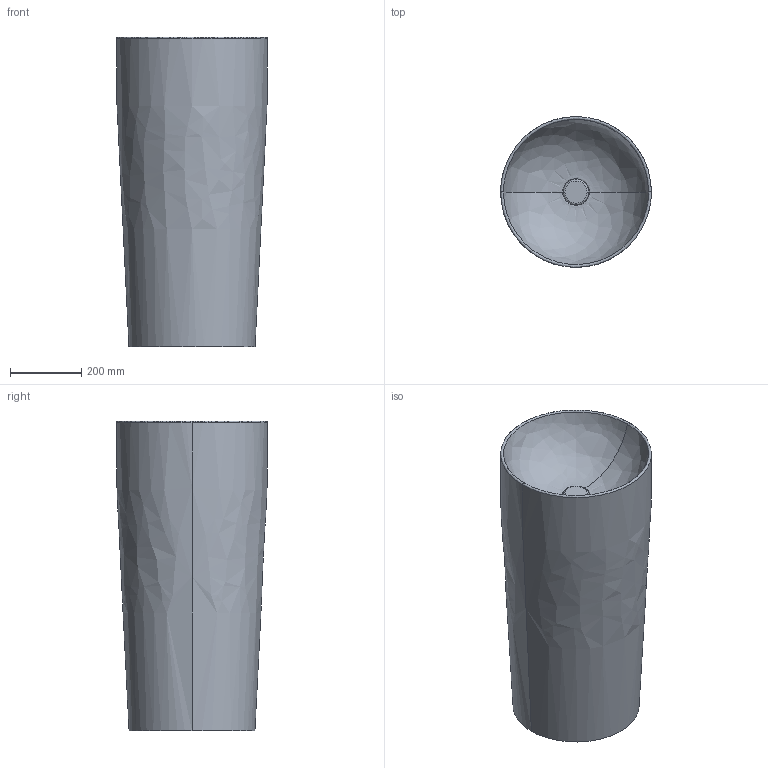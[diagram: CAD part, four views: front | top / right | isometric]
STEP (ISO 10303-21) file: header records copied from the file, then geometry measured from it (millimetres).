
FILE_DESCRIPTION(/* description */ (''),/* implementation_level */ '2;1');
FILE_NAME(/* name */ 'FLAT-5',/* time_stamp */ '2020-11-16T14:48:48+01:00',/* author */ (''),/* organization */ (''),/* preprocessor_version */ 'ST-DEVELOPER v15',/* originating_system */ '',/* authorisation */ '');
FILE_SCHEMA (('AUTOMOTIVE_DESIGN'));
Length unit declared in the file: millimetre
Products named in the file (1): Document
Bounding box: 423.78 x 423.78 x 870 mm (x, y, z)
Volume: 95333415.9 mm3; surface area: 1409931.1 mm2
Topology: 2 solids, 2 shells, 18 faces, 32 edges, 18 vertices
Faces by surface type: bspline 14, plane 4
Entity records: 1123 total; most frequent: CARTESIAN_POINT 898, ORIENTED_EDGE 64, EDGE_CURVE 32, ADVANCED_FACE 18, FACE_OUTER_BOUND 18, EDGE_LOOP 18, VERTEX_POINT 18, DIRECTION 8
